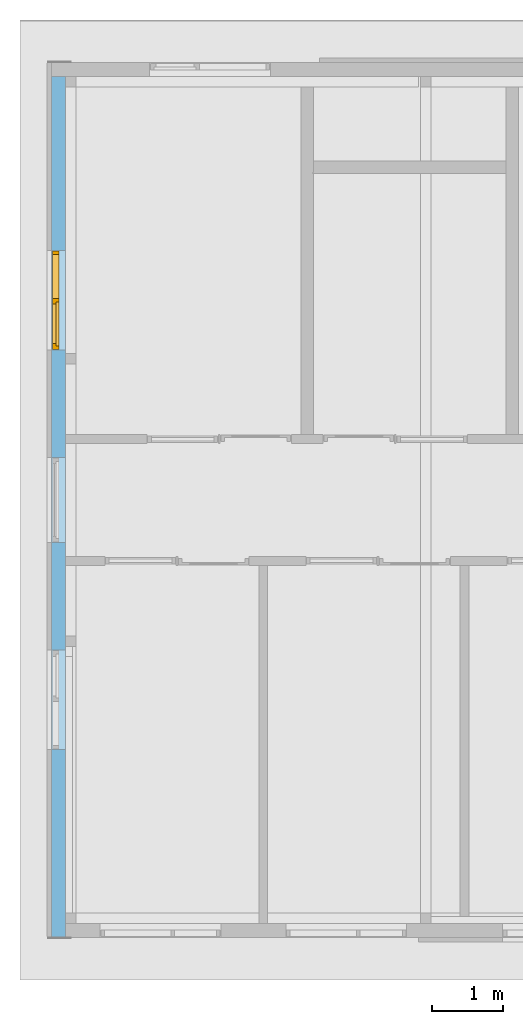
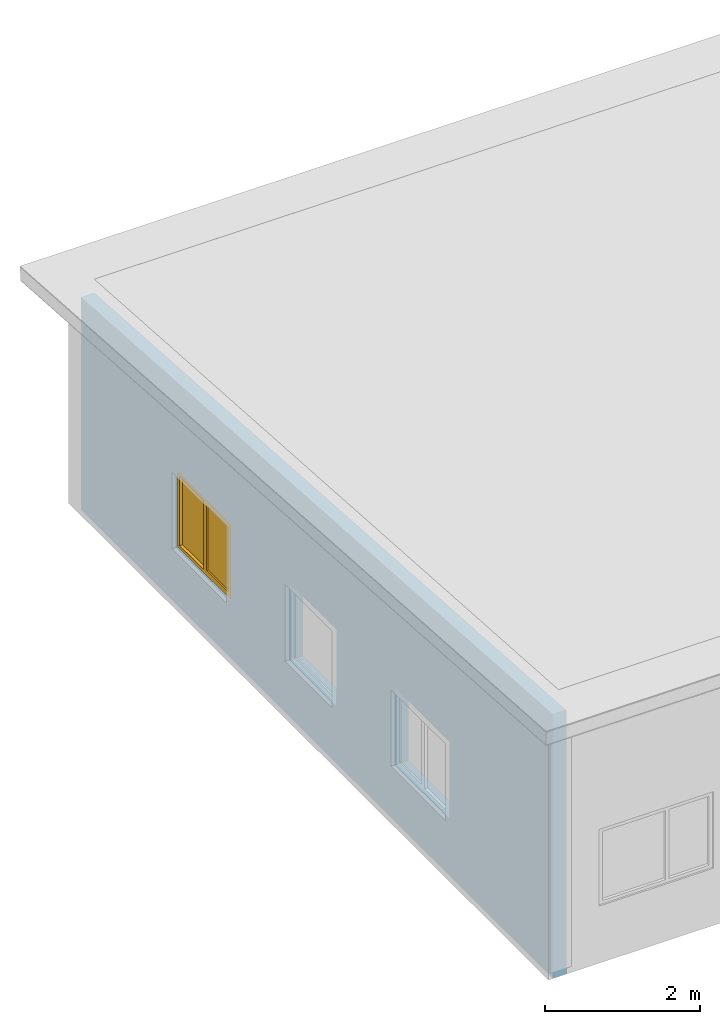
# One storey, part 7 of 37: 1 window, 3 openings, plus 1 element that does not belong to this part.
"""IFC2X3 building model written with IfcOpenShell, lengths in millimetres."""

from ifc_helpers import new_model, entity, si_unit, converted_unit, frame, frame_2d, origin, origin_with_axes, place, context, subcontext, project, spatial, rectangle, extrude, clip, halfspace, faceted_brep, material, layer, layer_set, layer_usage, type_object, element, fill, save


model = new_model("IFC2X3")

# Units and contexts
model_context = context("Model", 3, precision=1e-05, world=origin())
plan_context = context("Plan", 3, precision=1e-05, world=origin())
body_context = subcontext(model_context, "Body", "Model", "MODEL_VIEW")
ifc_project = project(units=[si_unit("LENGTHUNIT", "METRE", prefix="MILLI"), converted_unit("PLANEANGLEUNIT", "DEGREE", entity("IfcPlaneAngleMeasure", 0.0174532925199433), si_unit("PLANEANGLEUNIT", "RADIAN"), dimensions=[0, 0, 0, 0, 0, 0, 0]), si_unit("AREAUNIT", "SQUARE_METRE"), si_unit("VOLUMEUNIT", "CUBIC_METRE")], contexts=[model_context, plan_context])

# Building, storey
building_placement = place(None, origin())
building = spatial("IfcBuilding", under=ifc_project, at=building_placement, Name="HEKF Administrasjonbygg", CompositionType="ELEMENT")
storey_placement = place(building_placement, frame((0.0, 0.0, 9900.0), z_axis=(0.0, 0.0, 1.0), x_axis=(1.0, 0.0, 0.0)))
storey = spatial("IfcBuildingStorey", under=building, at=storey_placement, Name="Plan 2", CompositionType="ELEMENT", Elevation=9900.0)

# Wall, openings, window
ifc_material_1 = material(Name="Paroc 200")
ifc_layer = layer(ifc_material_1, 200.0)
ifc_layer_set = layer_set([ifc_layer])
ifc_layer_usage = layer_usage(ifc_layer_set, "AXIS2", "POSITIVE", 0.0)
wall_placement = place(storey_placement, frame((9899.99999999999, -12200.0, 0.0), z_axis=(0.0, 0.0, 1.0), x_axis=(5.963899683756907e-16, 1.0, 0.0)))
wall = element("IfcWallStandardCase", 1, at=wall_placement, inside=storey, material=ifc_layer_usage, context=body_context, shape_type="Clipping", body=[
    clip(extrude(rectangle(XDim=12200.0, YDim=200.0, at=frame_2d((6100.0, 100.0), x_axis=(1.0, 0.0))), origin_with_axes(), (0.0, 0.0, 1.0), 4163.33333333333), halfspace(frame((0.0, 0.0, 4163.33333333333), z_axis=(-0.06651901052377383, -3.967127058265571e-17, -0.9977851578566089), x_axis=(0.9977851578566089, 0.0, -0.06651901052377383)), True)),
])
opening_1_placement = place(wall_placement, frame((5595.0, -3.637978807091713e-12, 900.0), z_axis=(0.0, 1.0, 0.0), x_axis=(0.0, 0.0, 1.0)))
element("IfcOpeningElement", 2, at=opening_1_placement, cuts=wall, Name="Window opening", ObjectType="Opening", context=body_context, shape_type="SweptSolid", body=[
    extrude(rectangle(XDim=1210.0, YDim=1210.0, at=frame_2d((605.0, 605.0), x_axis=(1.0, 0.0))), origin_with_axes(), (0.0, 0.0, 1.0), 200.0),
])
opening_2_placement = place(wall_placement, frame((2664.999999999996, -1.818989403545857e-12, 900.0), z_axis=(0.0, 1.0, 0.0), x_axis=(0.0, 0.0, 1.0)))
element("IfcOpeningElement", 3, at=opening_2_placement, cuts=wall, Name="Window opening", ObjectType="Opening", context=body_context, shape_type="SweptSolid", body=[
    extrude(rectangle(XDim=1210.0, YDim=1410.000000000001, at=frame_2d((605.0, 705.0000000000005), x_axis=(1.0, 0.0))), origin_with_axes(), (0.0, 0.0, 1.0), 200.0),
])
opening_3_placement = place(wall_placement, frame((8324.999999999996, -5.456968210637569e-12, 900.0), z_axis=(0.0, 1.0, 0.0), x_axis=(0.0, 0.0, 1.0)))
opening_3 = element("IfcOpeningElement", 4, at=opening_3_placement, cuts=wall, Name="Window opening", ObjectType="Opening", context=body_context, shape_type="SweptSolid", body=[
    extrude(rectangle(XDim=1210.0, YDim=1410.0, at=frame_2d((605.0, 705.0), x_axis=(1.0, 0.0))), origin_with_axes(), (0.0, 0.0, 1.0), 200.0),
])
ifc_material_2 = material()
window_style = type_object("IfcWindowStyle", Name="V215", ConstructionType="NOTDEFINED", OperationType="USERDEFINED", ParameterTakesPrecedence=False, Sizeable=False)
window_placement = place(opening_3_placement, frame((0.0, 0.0, 0.0), z_axis=(1.0, 0.0, 0.0), x_axis=(0.0, 1.0, 0.0)))
window = element("IfcWindow", 5, at=window_placement, inside=storey, type_object=window_style, material=ifc_material_2, Name="V215", OverallHeight=1210.0, OverallWidth=1410.0, context=body_context, shape_type="Brep", body=[
    faceted_brep([(1400.0, 93.9999999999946, 1200.0), (1400.0, 93.99999999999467, 9.999999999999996), (1350.0, 93.99999999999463, 9.999999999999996), (1350.0, 93.99999999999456, 1200.0), (1400.0, 185.9999999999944, 10.0), (1400.0, 185.9999999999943, 1200.0), (1350.0, 185.9999999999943, 1200.0), (1350.0, 185.9999999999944, 10.0), (1400.0, 93.99999999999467, 9.999999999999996), (1400.0, 93.9999999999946, 1200.0), (1400.0, 185.9999999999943, 1200.0), (1400.0, 185.9999999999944, 10.0), (1350.0, 93.99999999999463, 9.999999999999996), (1400.0, 93.99999999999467, 9.999999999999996), (1400.0, 185.9999999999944, 10.0), (1350.0, 185.9999999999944, 10.0), (1350.0, 93.99999999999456, 1200.0), (1350.0, 93.99999999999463, 9.999999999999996), (1350.0, 185.9999999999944, 10.0), (1350.0, 185.9999999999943, 1200.0), (1400.0, 93.9999999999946, 1200.0), (1350.0, 93.99999999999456, 1200.0), (1350.0, 185.9999999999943, 1200.0), (1400.0, 185.9999999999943, 1200.0)], [[[0, 1, 2, 3]], [[4, 5, 6, 7]], [[8, 9, 10, 11]], [[12, 13, 14, 15]], [[16, 17, 18, 19]], [[20, 21, 22, 23]]], orient=[[False], [False], [False], [False], [False], [False]]),
    faceted_brep([(60.00000000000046, 93.99999999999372, 1200.0), (60.00000000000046, 93.99999999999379, 9.999999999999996), (10.00000000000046, 93.99999999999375, 9.999999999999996), (10.00000000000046, 93.99999999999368, 1200.0), (60.00000000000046, 185.9999999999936, 10.0), (60.00000000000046, 185.9999999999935, 1200.0), (10.00000000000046, 185.9999999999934, 1200.0), (10.00000000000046, 185.9999999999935, 10.0), (60.00000000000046, 93.99999999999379, 9.999999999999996), (60.00000000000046, 93.99999999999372, 1200.0), (60.00000000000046, 185.9999999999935, 1200.0), (60.00000000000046, 185.9999999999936, 10.0), (10.00000000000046, 93.99999999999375, 9.999999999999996), (60.00000000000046, 93.99999999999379, 9.999999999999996), (60.00000000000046, 185.9999999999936, 10.0), (10.00000000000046, 185.9999999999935, 10.0), (10.00000000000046, 93.99999999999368, 1200.0), (10.00000000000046, 93.99999999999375, 9.999999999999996), (10.00000000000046, 185.9999999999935, 10.0), (10.00000000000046, 185.9999999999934, 1200.0), (60.00000000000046, 93.99999999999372, 1200.0), (10.00000000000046, 93.99999999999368, 1200.0), (10.00000000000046, 185.9999999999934, 1200.0), (60.00000000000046, 185.9999999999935, 1200.0)], [[[0, 1, 2, 3]], [[4, 5, 6, 7]], [[8, 9, 10, 11]], [[12, 13, 14, 15]], [[16, 17, 18, 19]], [[20, 21, 22, 23]]], orient=[[False], [False], [False], [False], [False], [False]]),
    faceted_brep([(1350.0, 93.99999999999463, 60.0), (1350.0, 93.99999999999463, 9.999999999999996), (60.00000000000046, 93.99999999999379, 9.999999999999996), (60.00000000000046, 93.99999999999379, 60.0), (1350.0, 185.9999999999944, 10.0), (1350.0, 185.9999999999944, 60.0), (60.00000000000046, 185.9999999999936, 60.0), (60.00000000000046, 185.9999999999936, 10.0), (1350.0, 93.99999999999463, 9.999999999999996), (1350.0, 93.99999999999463, 60.0), (1350.0, 185.9999999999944, 60.0), (1350.0, 185.9999999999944, 10.0), (60.00000000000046, 93.99999999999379, 9.999999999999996), (1350.0, 93.99999999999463, 9.999999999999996), (1350.0, 185.9999999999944, 10.0), (60.00000000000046, 185.9999999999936, 10.0), (60.00000000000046, 93.99999999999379, 60.0), (60.00000000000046, 93.99999999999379, 9.999999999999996), (60.00000000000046, 185.9999999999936, 10.0), (60.00000000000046, 185.9999999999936, 60.0), (1350.0, 93.99999999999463, 60.0), (60.00000000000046, 93.99999999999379, 60.0), (60.00000000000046, 185.9999999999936, 60.0), (1350.0, 185.9999999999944, 60.0)], [[[0, 1, 2, 3]], [[4, 5, 6, 7]], [[8, 9, 10, 11]], [[12, 13, 14, 15]], [[16, 17, 18, 19]], [[20, 21, 22, 23]]], orient=[[False], [False], [False], [False], [False], [False]]),
    faceted_brep([(1350.0, 93.99999999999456, 1200.0), (1350.0, 93.99999999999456, 1150.0), (60.00000000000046, 93.99999999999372, 1150.0), (60.00000000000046, 93.99999999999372, 1200.0), (1350.0, 185.9999999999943, 1150.0), (1350.0, 185.9999999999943, 1200.0), (60.00000000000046, 185.9999999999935, 1200.0), (60.00000000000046, 185.9999999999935, 1150.0), (1350.0, 93.99999999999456, 1150.0), (1350.0, 93.99999999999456, 1200.0), (1350.0, 185.9999999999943, 1200.0), (1350.0, 185.9999999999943, 1150.0), (60.00000000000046, 93.99999999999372, 1150.0), (1350.0, 93.99999999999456, 1150.0), (1350.0, 185.9999999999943, 1150.0), (60.00000000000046, 185.9999999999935, 1150.0), (60.00000000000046, 93.99999999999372, 1200.0), (60.00000000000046, 93.99999999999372, 1150.0), (60.00000000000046, 185.9999999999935, 1150.0), (60.00000000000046, 185.9999999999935, 1200.0), (1350.0, 93.99999999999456, 1200.0), (60.00000000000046, 93.99999999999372, 1200.0), (60.00000000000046, 185.9999999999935, 1200.0), (1350.0, 185.9999999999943, 1200.0)], [[[0, 1, 2, 3]], [[4, 5, 6, 7]], [[8, 9, 10, 11]], [[12, 13, 14, 15]], [[16, 17, 18, 19]], [[20, 21, 22, 23]]], orient=[[False], [False], [False], [False], [False], [False]]),
    faceted_brep([(730.0000000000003, 93.99999999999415, 1150.0), (730.0000000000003, 93.99999999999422, 60.00000000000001), (680.0000000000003, 93.99999999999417, 60.00000000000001), (680.0000000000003, 93.9999999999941, 1150.0), (730.0000000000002, 185.999999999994, 60.00000000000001), (730.0000000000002, 185.9999999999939, 1150.0), (680.0000000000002, 185.9999999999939, 1150.0), (680.0000000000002, 185.9999999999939, 60.00000000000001), (730.0000000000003, 93.99999999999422, 60.00000000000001), (730.0000000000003, 93.99999999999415, 1150.0), (730.0000000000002, 185.9999999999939, 1150.0), (730.0000000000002, 185.999999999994, 60.00000000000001), (680.0000000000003, 93.99999999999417, 60.00000000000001), (730.0000000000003, 93.99999999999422, 60.00000000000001), (730.0000000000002, 185.999999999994, 60.00000000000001), (680.0000000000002, 185.9999999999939, 60.00000000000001), (680.0000000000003, 93.9999999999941, 1150.0), (680.0000000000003, 93.99999999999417, 60.00000000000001), (680.0000000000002, 185.9999999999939, 60.00000000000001), (680.0000000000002, 185.9999999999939, 1150.0), (730.0000000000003, 93.99999999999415, 1150.0), (680.0000000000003, 93.9999999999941, 1150.0), (680.0000000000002, 185.9999999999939, 1150.0), (730.0000000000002, 185.9999999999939, 1150.0)], [[[0, 1, 2, 3]], [[4, 5, 6, 7]], [[8, 9, 10, 11]], [[12, 13, 14, 15]], [[16, 17, 18, 19]], [[20, 21, 22, 23]]], orient=[[False], [False], [False], [False], [False], [False]]),
    faceted_brep([(1350.0, 139.9999999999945, 60.00000000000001), (730.0000000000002, 139.9999999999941, 60.00000000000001), (730.0000000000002, 139.999999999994, 1150.0), (1350.0, 139.9999999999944, 1150.0), (1350.0, 140.9999999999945, 60.00000000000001), (1350.0, 140.9999999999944, 1150.0), (730.0000000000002, 140.999999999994, 1150.0), (730.0000000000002, 140.9999999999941, 60.00000000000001), (1350.0, 139.9999999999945, 60.00000000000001), (1350.0, 140.9999999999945, 60.00000000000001), (730.0000000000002, 140.9999999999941, 60.00000000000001), (730.0000000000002, 139.9999999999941, 60.00000000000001), (730.0000000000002, 139.9999999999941, 60.00000000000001), (730.0000000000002, 140.9999999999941, 60.00000000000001), (730.0000000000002, 140.999999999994, 1150.0), (730.0000000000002, 139.999999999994, 1150.0), (730.0000000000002, 139.999999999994, 1150.0), (730.0000000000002, 140.999999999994, 1150.0), (1350.0, 140.9999999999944, 1150.0), (1350.0, 139.9999999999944, 1150.0), (1350.0, 139.9999999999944, 1150.0), (1350.0, 140.9999999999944, 1150.0), (1350.0, 140.9999999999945, 60.00000000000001), (1350.0, 139.9999999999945, 60.00000000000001)], [[[0, 1, 2, 3]], [[4, 5, 6, 7]], [[8, 9, 10, 11]], [[12, 13, 14, 15]], [[16, 17, 18, 19]], [[20, 21, 22, 23]]], orient=[[False], [False], [False], [False], [False], [False]]),
    faceted_brep([(700.0000000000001, 135.999999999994, 1170.0), (700.0000000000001, 135.9999999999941, 40.0), (650.0000000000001, 135.9999999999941, 40.0), (650.0000000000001, 135.999999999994, 1170.0), (700.0000000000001, 185.999999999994, 40.0), (700.0000000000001, 185.9999999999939, 1170.0), (650.0000000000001, 185.9999999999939, 1170.0), (650.0000000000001, 185.9999999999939, 40.0), (700.0000000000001, 135.9999999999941, 40.0), (700.0000000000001, 135.999999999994, 1170.0), (700.0000000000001, 185.9999999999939, 1170.0), (700.0000000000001, 185.999999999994, 40.0), (650.0000000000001, 135.9999999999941, 40.0), (700.0000000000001, 135.9999999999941, 40.0), (700.0000000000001, 185.999999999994, 40.0), (650.0000000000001, 185.9999999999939, 40.0), (650.0000000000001, 135.999999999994, 1170.0), (650.0000000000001, 135.9999999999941, 40.0), (650.0000000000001, 185.9999999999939, 40.0), (650.0000000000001, 185.9999999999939, 1170.0), (700.0000000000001, 135.999999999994, 1170.0), (650.0000000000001, 135.999999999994, 1170.0), (650.0000000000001, 185.9999999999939, 1170.0), (700.0000000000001, 185.9999999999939, 1170.0)], [[[0, 1, 2, 3]], [[4, 5, 6, 7]], [[8, 9, 10, 11]], [[12, 13, 14, 15]], [[16, 17, 18, 19]], [[20, 21, 22, 23]]], orient=[[False], [False], [False], [False], [False], [False]]),
    faceted_brep([(90.00000000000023, 135.9999999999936, 1170.0), (90.00000000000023, 135.9999999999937, 40.0), (40.00000000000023, 135.9999999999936, 40.0), (40.00000000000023, 135.9999999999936, 1170.0), (90.00000000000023, 185.9999999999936, 40.0), (90.00000000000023, 185.9999999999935, 1170.0), (40.00000000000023, 185.9999999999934, 1170.0), (40.00000000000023, 185.9999999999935, 40.0), (90.00000000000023, 135.9999999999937, 40.0), (90.00000000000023, 135.9999999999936, 1170.0), (90.00000000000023, 185.9999999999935, 1170.0), (90.00000000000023, 185.9999999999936, 40.0), (40.00000000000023, 135.9999999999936, 40.0), (90.00000000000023, 135.9999999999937, 40.0), (90.00000000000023, 185.9999999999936, 40.0), (40.00000000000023, 185.9999999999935, 40.0), (40.00000000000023, 135.9999999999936, 1170.0), (40.00000000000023, 135.9999999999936, 40.0), (40.00000000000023, 185.9999999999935, 40.0), (40.00000000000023, 185.9999999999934, 1170.0), (90.00000000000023, 135.9999999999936, 1170.0), (40.00000000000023, 135.9999999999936, 1170.0), (40.00000000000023, 185.9999999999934, 1170.0), (90.00000000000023, 185.9999999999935, 1170.0)], [[[0, 1, 2, 3]], [[4, 5, 6, 7]], [[8, 9, 10, 11]], [[12, 13, 14, 15]], [[16, 17, 18, 19]], [[20, 21, 22, 23]]], orient=[[False], [False], [False], [False], [False], [False]]),
    faceted_brep([(650.0000000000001, 135.9999999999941, 90.0), (650.0000000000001, 135.9999999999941, 40.0), (90.00000000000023, 135.9999999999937, 40.0), (90.00000000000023, 135.9999999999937, 90.0), (650.0000000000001, 185.9999999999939, 40.0), (650.0000000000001, 185.9999999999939, 90.0), (90.00000000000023, 185.9999999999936, 90.0), (90.00000000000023, 185.9999999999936, 40.0), (650.0000000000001, 135.9999999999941, 40.0), (650.0000000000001, 135.9999999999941, 90.0), (650.0000000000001, 185.9999999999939, 90.0), (650.0000000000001, 185.9999999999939, 40.0), (90.00000000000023, 135.9999999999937, 40.0), (650.0000000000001, 135.9999999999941, 40.0), (650.0000000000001, 185.9999999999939, 40.0), (90.00000000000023, 185.9999999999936, 40.0), (90.00000000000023, 135.9999999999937, 90.0), (90.00000000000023, 135.9999999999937, 40.0), (90.00000000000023, 185.9999999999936, 40.0), (90.00000000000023, 185.9999999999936, 90.0), (650.0000000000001, 135.9999999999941, 90.0), (90.00000000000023, 135.9999999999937, 90.0), (90.00000000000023, 185.9999999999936, 90.0), (650.0000000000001, 185.9999999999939, 90.0)], [[[0, 1, 2, 3]], [[4, 5, 6, 7]], [[8, 9, 10, 11]], [[12, 13, 14, 15]], [[16, 17, 18, 19]], [[20, 21, 22, 23]]], orient=[[False], [False], [False], [False], [False], [False]]),
    faceted_brep([(650.0000000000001, 135.999999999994, 1170.0), (650.0000000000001, 135.999999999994, 1120.0), (90.00000000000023, 135.9999999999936, 1120.0), (90.00000000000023, 135.9999999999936, 1170.0), (650.0000000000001, 185.9999999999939, 1120.0), (650.0000000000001, 185.9999999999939, 1170.0), (90.00000000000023, 185.9999999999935, 1170.0), (90.00000000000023, 185.9999999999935, 1120.0), (650.0000000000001, 135.999999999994, 1120.0), (650.0000000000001, 135.999999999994, 1170.0), (650.0000000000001, 185.9999999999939, 1170.0), (650.0000000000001, 185.9999999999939, 1120.0), (90.00000000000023, 135.9999999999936, 1120.0), (650.0000000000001, 135.999999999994, 1120.0), (650.0000000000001, 185.9999999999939, 1120.0), (90.00000000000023, 185.9999999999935, 1120.0), (90.00000000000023, 135.9999999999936, 1170.0), (90.00000000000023, 135.9999999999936, 1120.0), (90.00000000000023, 185.9999999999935, 1120.0), (90.00000000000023, 185.9999999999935, 1170.0), (650.0000000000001, 135.999999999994, 1170.0), (90.00000000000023, 135.9999999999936, 1170.0), (90.00000000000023, 185.9999999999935, 1170.0), (650.0000000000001, 185.9999999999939, 1170.0)], [[[0, 1, 2, 3]], [[4, 5, 6, 7]], [[8, 9, 10, 11]], [[12, 13, 14, 15]], [[16, 17, 18, 19]], [[20, 21, 22, 23]]], orient=[[False], [False], [False], [False], [False], [False]]),
    faceted_brep([(650.0000000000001, 160.999999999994, 90.00000000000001), (90.00000000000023, 160.9999999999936, 90.00000000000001), (90.00000000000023, 160.9999999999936, 1120.0), (650.0000000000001, 160.9999999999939, 1120.0), (650.0000000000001, 161.999999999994, 90.00000000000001), (650.0000000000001, 161.9999999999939, 1120.0), (90.00000000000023, 161.9999999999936, 1120.0), (90.00000000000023, 161.9999999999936, 90.00000000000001), (650.0000000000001, 160.999999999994, 90.00000000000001), (650.0000000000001, 161.999999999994, 90.00000000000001), (90.00000000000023, 161.9999999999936, 90.00000000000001), (90.00000000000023, 160.9999999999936, 90.00000000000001), (90.00000000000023, 160.9999999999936, 90.00000000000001), (90.00000000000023, 161.9999999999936, 90.00000000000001), (90.00000000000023, 161.9999999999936, 1120.0), (90.00000000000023, 160.9999999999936, 1120.0), (90.00000000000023, 160.9999999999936, 1120.0), (90.00000000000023, 161.9999999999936, 1120.0), (650.0000000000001, 161.9999999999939, 1120.0), (650.0000000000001, 160.9999999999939, 1120.0), (650.0000000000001, 160.9999999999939, 1120.0), (650.0000000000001, 161.9999999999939, 1120.0), (650.0000000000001, 161.999999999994, 90.00000000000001), (650.0000000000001, 160.999999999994, 90.00000000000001)], [[[0, 1, 2, 3]], [[4, 5, 6, 7]], [[8, 9, 10, 11]], [[12, 13, 14, 15]], [[16, 17, 18, 19]], [[20, 21, 22, 23]]], orient=[[False], [False], [False], [False], [False], [False]]),
])
fill(opening_3, window)

save(model, "model.ifc")
